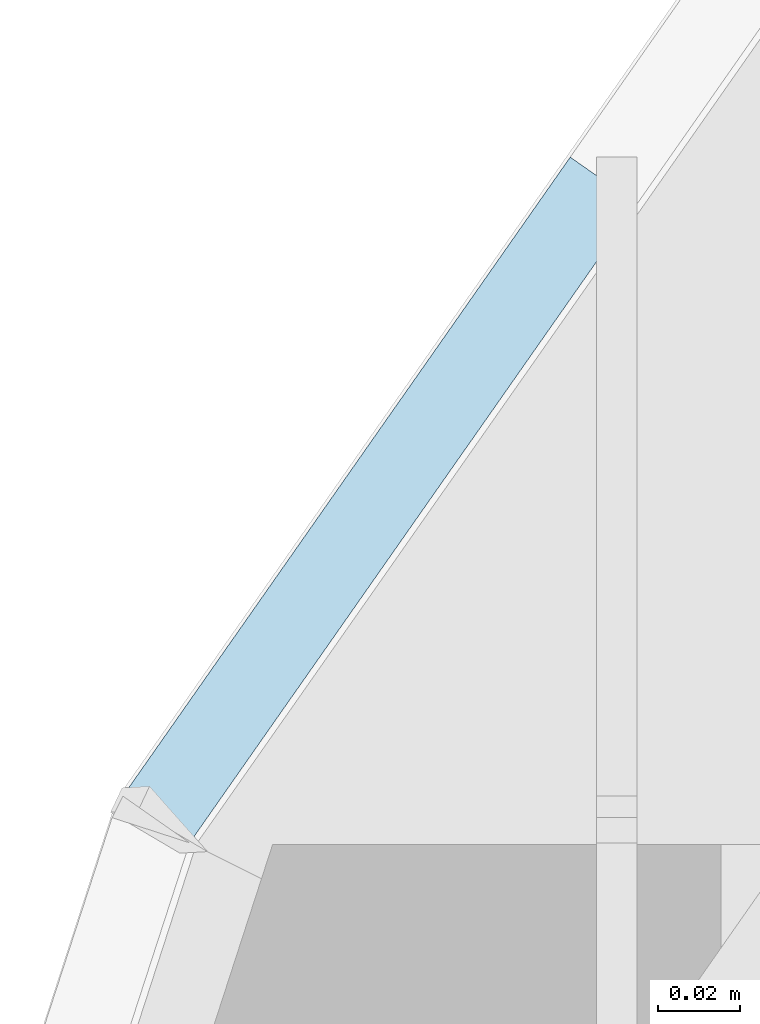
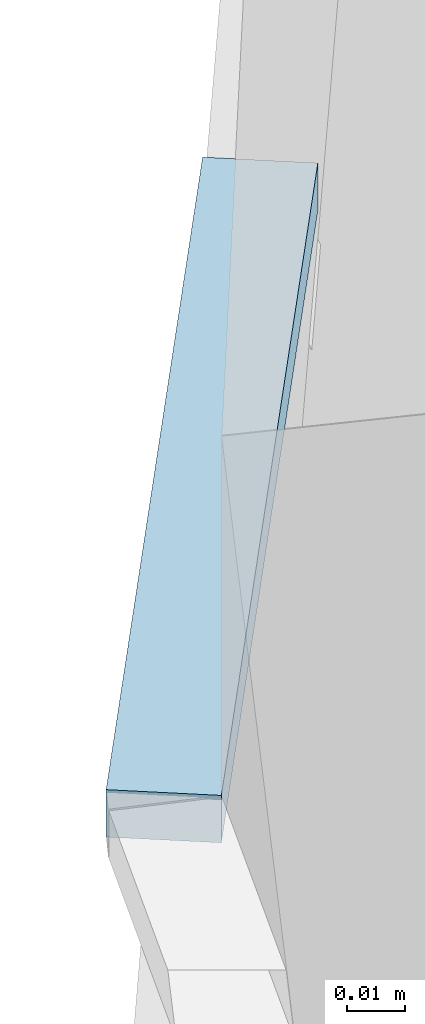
# One storey, part 305 of 583: 1 slab.
"""IFC2X3 building model written with IfcOpenShell, lengths in metres."""

from ifc_helpers import new_model, entity, si_unit, converted_unit, derived_unit, money_unit, direction, frame, origin_with_axes, place, context, subcontext, project, spatial, faceted_brep, material, type_object, element, save


model = new_model("IFC2X3")

# Units and contexts
model_context = context("Model", 3, precision=1e-05, world=origin_with_axes(), true_north=direction((0.0, 1.0)))
body_context = subcontext(model_context, "Body", "Model", "MODEL_VIEW", scale=1.0)
ifc_project = project(units=[si_unit("LENGTHUNIT", "METRE"), si_unit("AREAUNIT", "SQUARE_METRE"), si_unit("VOLUMEUNIT", "CUBIC_METRE"), si_unit("ABSORBEDDOSEUNIT", "GRAY"), si_unit("AMOUNTOFSUBSTANCEUNIT", "MOLE"), si_unit("DOSEEQUIVALENTUNIT", "SIEVERT"), si_unit("ELECTRICCAPACITANCEUNIT", "FARAD"), si_unit("ELECTRICCHARGEUNIT", "COULOMB"), si_unit("ELECTRICCONDUCTANCEUNIT", "SIEMENS"), si_unit("ELECTRICCURRENTUNIT", "AMPERE"), si_unit("ELECTRICRESISTANCEUNIT", "OHM"), si_unit("ELECTRICVOLTAGEUNIT", "VOLT"), si_unit("ENERGYUNIT", "JOULE"), si_unit("FORCEUNIT", "NEWTON"), si_unit("FREQUENCYUNIT", "HERTZ"), si_unit("ILLUMINANCEUNIT", "LUX"), si_unit("INDUCTANCEUNIT", "HENRY"), si_unit("LUMINOUSFLUXUNIT", "LUMEN"), si_unit("LUMINOUSINTENSITYUNIT", "CANDELA"), si_unit("MAGNETICFLUXDENSITYUNIT", "TESLA"), si_unit("MAGNETICFLUXUNIT", "WEBER"), si_unit("MASSUNIT", "GRAM"), converted_unit("PLANEANGLEUNIT", "degree", entity("IfcReal", 0.0174532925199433), si_unit("PLANEANGLEUNIT", "RADIAN"), dimensions=[0, 0, 0, 0, 0, 0, 0]), si_unit("POWERUNIT", "WATT"), si_unit("PRESSUREUNIT", "PASCAL"), si_unit("RADIOACTIVITYUNIT", "BECQUEREL"), si_unit("SOLIDANGLEUNIT", "STERADIAN"), si_unit("THERMODYNAMICTEMPERATUREUNIT", "KELVIN"), si_unit("TIMEUNIT", "SECOND"), derived_unit("ACCELERATIONUNIT", [(si_unit("LENGTHUNIT", "METRE"), 1), (si_unit("TIMEUNIT", "SECOND"), -2)]), derived_unit("ANGULARVELOCITYUNIT", [(converted_unit("PLANEANGLEUNIT", "degree", entity("IfcReal", 0.0174532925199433), si_unit("PLANEANGLEUNIT", "RADIAN"), dimensions=[0, 0, 0, 0, 0, 0, 0]), 1), (si_unit("TIMEUNIT", "SECOND"), -1)]), derived_unit("CURVATUREUNIT", [(converted_unit("PLANEANGLEUNIT", "degree", entity("IfcReal", 0.0174532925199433), si_unit("PLANEANGLEUNIT", "RADIAN"), dimensions=[0, 0, 0, 0, 0, 0, 0]), 1), (si_unit("LENGTHUNIT", "METRE"), -1)]), derived_unit("DYNAMICVISCOSITYUNIT", [(si_unit("PRESSUREUNIT", "PASCAL"), 1), (si_unit("TIMEUNIT", "SECOND"), 1)]), derived_unit("HEATFLUXDENSITYUNIT", [(si_unit("POWERUNIT", "WATT"), 1), (si_unit("LENGTHUNIT", "METRE"), -2)]), derived_unit("HEATINGVALUEUNIT", [(si_unit("ENERGYUNIT", "JOULE"), 1), (si_unit("MASSUNIT", "GRAM"), -1)]), derived_unit("INTEGERCOUNTRATEUNIT", [(si_unit("TIMEUNIT", "SECOND"), -1)]), derived_unit("IONCONCENTRATIONUNIT", [(si_unit("MASSUNIT", "GRAM"), 1), (si_unit("VOLUMEUNIT", "CUBIC_METRE"), -1)]), derived_unit("ISOTHERMALMOISTURECAPACITYUNIT", [(si_unit("VOLUMEUNIT", "CUBIC_METRE"), 1), (si_unit("MASSUNIT", "GRAM"), -1)]), derived_unit("KINEMATICVISCOSITYUNIT", [(si_unit("AREAUNIT", "SQUARE_METRE"), 1), (si_unit("TIMEUNIT", "SECOND"), -1)]), derived_unit("LINEARFORCEUNIT", [(si_unit("FORCEUNIT", "NEWTON"), 1), (si_unit("LENGTHUNIT", "METRE"), -1)]), derived_unit("LINEARMOMENTUNIT", [(si_unit("FORCEUNIT", "NEWTON"), 1), (si_unit("LENGTHUNIT", "METRE"), -1)]), derived_unit("LINEARSTIFFNESSUNIT", [(si_unit("FORCEUNIT", "NEWTON"), 1), (si_unit("LENGTHUNIT", "METRE"), -1)]), derived_unit("LINEARVELOCITYUNIT", [(si_unit("LENGTHUNIT", "METRE"), 1), (si_unit("TIMEUNIT", "SECOND"), -1)]), derived_unit("LUMINOUSINTENSITYDISTRIBUTIONUNIT", [(si_unit("LUMINOUSINTENSITYUNIT", "CANDELA"), 1), (si_unit("LUMINOUSFLUXUNIT", "LUMEN"), -1)]), derived_unit("MASSDENSITYUNIT", [(si_unit("MASSUNIT", "GRAM"), 1), (si_unit("VOLUMEUNIT", "CUBIC_METRE"), -1)]), derived_unit("MASSFLOWRATEUNIT", [(si_unit("MASSUNIT", "GRAM"), 1), (si_unit("TIMEUNIT", "SECOND"), -1)]), derived_unit("MASSPERLENGTHUNIT", [(si_unit("MASSUNIT", "GRAM"), 1), (si_unit("LENGTHUNIT", "METRE"), -1)]), derived_unit("MODULUSOFELASTICITYUNIT", [(si_unit("FORCEUNIT", "NEWTON"), 1), (si_unit("AREAUNIT", "SQUARE_METRE"), -1)]), derived_unit("MODULUSOFLINEARSUBGRADEREACTIONUNIT", [(si_unit("FORCEUNIT", "NEWTON"), 1), (si_unit("LENGTHUNIT", "METRE"), -2)]), derived_unit("MODULUSOFROTATIONALSUBGRADEREACTIONUNIT", [(si_unit("FORCEUNIT", "NEWTON"), 1), (si_unit("LENGTHUNIT", "METRE"), 1)]), derived_unit("MODULUSOFSUBGRADEREACTIONUNIT", [(si_unit("FORCEUNIT", "NEWTON"), 1), (si_unit("VOLUMEUNIT", "CUBIC_METRE"), -1)]), derived_unit("MOISTUREDIFFUSIVITYUNIT", [(si_unit("VOLUMEUNIT", "CUBIC_METRE"), 1), (si_unit("TIMEUNIT", "SECOND"), -1)]), derived_unit("MOLECULARWEIGHTUNIT", [(si_unit("MASSUNIT", "GRAM"), 1), (si_unit("AMOUNTOFSUBSTANCEUNIT", "MOLE"), -1)]), derived_unit("PLANARFORCEUNIT", [(si_unit("FORCEUNIT", "NEWTON"), 1), (si_unit("LENGTHUNIT", "METRE"), -2)]), derived_unit("ROTATIONALFREQUENCYUNIT", [(si_unit("TIMEUNIT", "SECOND"), -1)]), derived_unit("ROTATIONALMASSUNIT", [(si_unit("MASSUNIT", "GRAM"), 1), (si_unit("LENGTHUNIT", "METRE"), 2)]), derived_unit("ROTATIONALSTIFFNESSUNIT", [(si_unit("FORCEUNIT", "NEWTON"), 1), (si_unit("LENGTHUNIT", "METRE"), 1), (converted_unit("PLANEANGLEUNIT", "degree", entity("IfcReal", 0.0174532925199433), si_unit("PLANEANGLEUNIT", "RADIAN"), dimensions=[0, 0, 0, 0, 0, 0, 0]), -1)]), derived_unit("SECTIONAREAINTEGRALUNIT", [(si_unit("LENGTHUNIT", "METRE"), 5)]), derived_unit("SECTIONMODULUSUNIT", [(si_unit("LENGTHUNIT", "METRE"), 3)]), derived_unit("SHEARMODULUSUNIT", [(si_unit("FORCEUNIT", "NEWTON"), 1), (si_unit("AREAUNIT", "SQUARE_METRE"), -1)]), derived_unit("SOUNDPOWERUNIT", [(si_unit("ENERGYUNIT", "JOULE"), 1), (si_unit("TIMEUNIT", "SECOND"), -1)]), derived_unit("SPECIFICHEATCAPACITYUNIT", [(si_unit("FORCEUNIT", "NEWTON"), 1), (si_unit("MASSUNIT", "GRAM"), -1), (si_unit("THERMODYNAMICTEMPERATUREUNIT", "KELVIN"), -1)]), derived_unit("TEMPERATUREGRADIENTUNIT", [(si_unit("THERMODYNAMICTEMPERATUREUNIT", "KELVIN"), 1), (si_unit("LENGTHUNIT", "METRE"), -1)]), derived_unit("THERMALADMITTANCEUNIT", [(si_unit("POWERUNIT", "WATT"), 1), (si_unit("AREAUNIT", "SQUARE_METRE"), -1), (si_unit("THERMODYNAMICTEMPERATUREUNIT", "KELVIN"), -1)]), derived_unit("THERMALCONDUCTANCEUNIT", [(si_unit("POWERUNIT", "WATT"), 1), (si_unit("LENGTHUNIT", "METRE"), -1), (si_unit("THERMODYNAMICTEMPERATUREUNIT", "KELVIN"), -1)]), derived_unit("THERMALEXPANSIONCOEFFICIENTUNIT", [(si_unit("THERMODYNAMICTEMPERATUREUNIT", "KELVIN"), -1)]), derived_unit("THERMALRESISTANCEUNIT", [(si_unit("AREAUNIT", "SQUARE_METRE"), 1), (si_unit("POWERUNIT", "WATT"), -1)]), derived_unit("THERMALTRANSMITTANCEUNIT", [(si_unit("POWERUNIT", "WATT"), 1), (si_unit("AREAUNIT", "SQUARE_METRE"), -1), (si_unit("THERMODYNAMICTEMPERATUREUNIT", "KELVIN"), -1)]), derived_unit("TORQUEUNIT", [(si_unit("FORCEUNIT", "NEWTON"), 1), (si_unit("LENGTHUNIT", "METRE"), 1)]), derived_unit("VAPORPERMEABILITYUNIT", [(si_unit("MASSUNIT", "GRAM"), 1), (si_unit("TIMEUNIT", "SECOND"), -1)]), derived_unit("VOLUMETRICFLOWRATEUNIT", [(si_unit("VOLUMEUNIT", "CUBIC_METRE"), 1), (si_unit("TIMEUNIT", "SECOND"), -1)]), derived_unit("WARPINGCONSTANTUNIT", [(si_unit("LENGTHUNIT", "METRE"), 6)]), derived_unit("WARPINGMOMENTUNIT", [(si_unit("FORCEUNIT", "NEWTON"), 1), (si_unit("LENGTHUNIT", "METRE"), 2)]), money_unit("GBP")], contexts=[model_context])

# Site, building, storey
site_placement = place(None, origin_with_axes())
site = spatial("IfcSite", under=ifc_project, at=site_placement, Name="Site", CompositionType="ELEMENT")
building_placement = place(site_placement, origin_with_axes())
building = spatial("IfcBuilding", under=site, at=building_placement, Name="Building01", CompositionType="ELEMENT")
storey_placement = place(building_placement, frame((0.0, 0.0, 20.78), z_axis=(0.0, 0.0, 1.0), x_axis=(1.0, 0.0, 0.0)))
storey = spatial("IfcBuildingStorey", under=building, at=storey_placement, Name="RL", CompositionType="ELEMENT", Elevation=20.78)

# Slab
ifc_material = material(Name="A_BSUK_Roofs")
slab_type = type_object("IfcSlabType", Name="A-FloorsSlabs A_BSUK_Slabs", PredefinedType="FLOOR")
slab_placement = place(storey_placement, frame((1.33426, 18.780461, -19.319976), z_axis=(0.0, 1.0, 0.0), x_axis=(0.0, 0.0, 1.0)))
element("IfcSlab", 1, at=slab_placement, inside=storey, type_object=slab_type, material=ifc_material, Name="A-FloorsSlabs A_BSUK_Slabs", ObjectType="A-FloorsSlabs A_BSUK_Slabs", context=body_context, shape_type="Brep", body=[
    faceted_brep([(0.0, 0.109715, 0.15669), (0.0, 0.093332, 0.168161), (0.0, -0.016383, 0.011472), (0.0, 0.0, 0.0), (-0.01, -0.016383, 0.011472), (-0.01, 0.0, 0.0), (-0.01, 0.093332, 0.168161), (-0.01, 0.109715, 0.15669)], [[[0, 1, 2, 3]], [[3, 2, 4, 5]], [[5, 4, 6, 7]], [[7, 6, 1, 0]], [[1, 6, 4, 2]], [[3, 5, 7, 0]]]),
])

save(model, "model.ifc")
